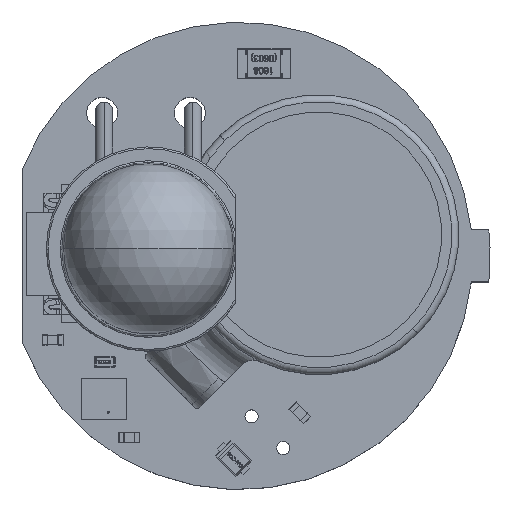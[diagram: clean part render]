
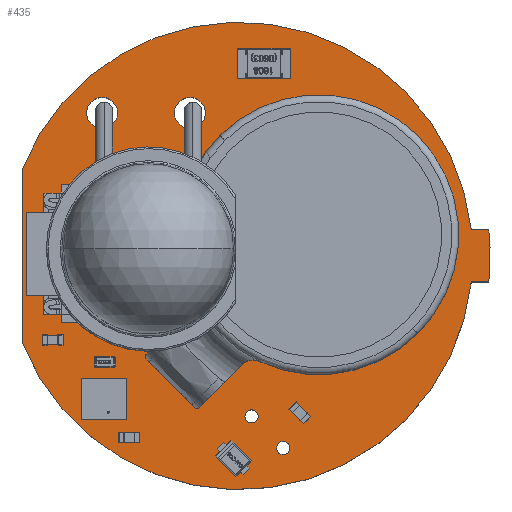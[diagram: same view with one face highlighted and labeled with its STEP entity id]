
A CAD part, top view. The second image highlights one B-rep face of the part: STEP entity #435.
In plain terms, the highlighted planar face has unit normal (0, 0, 1).
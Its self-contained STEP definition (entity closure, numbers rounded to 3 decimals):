
#92 = VERTEX_POINT('',#93);
#93 = CARTESIAN_POINT('',(0.,0.,
    1.6));
#99 = EDGE_CURVE('',#92,#100,#102,.T.);
#100 = VERTEX_POINT('',#101);
#101 = CARTESIAN_POINT('',(12.978,1.75,1.6));
#102 = CIRCLE('',#103,6.75);
#103 = AXIS2_PLACEMENT_3D('',#104,#105,#106);
#104 = CARTESIAN_POINT('',(6.27,2.5,1.6));
#105 = DIRECTION('',(0.,0.,1.));
#106 = DIRECTION('',(-0.929,-0.37,0.));
#132 = EDGE_CURVE('',#100,#133,#135,.T.);
#133 = VERTEX_POINT('',#134);
#134 = CARTESIAN_POINT('',(13.481,1.75,1.6));
#135 = LINE('',#136,#137);
#136 = CARTESIAN_POINT('',(12.978,1.75,1.6));
#137 = VECTOR('',#138,1.);
#138 = DIRECTION('',(1.,0.,0.));
#163 = EDGE_CURVE('',#133,#164,#166,.T.);
#164 = VERTEX_POINT('',#165);
#165 = CARTESIAN_POINT('',(13.481,3.25,1.6));
#166 = CIRCLE('',#167,7.231);
#167 = AXIS2_PLACEMENT_3D('',#168,#169,#170);
#168 = CARTESIAN_POINT('',(6.289,2.5,1.6));
#169 = DIRECTION('',(0.,0.,1.));
#170 = DIRECTION('',(0.995,-0.104,0.));
#196 = EDGE_CURVE('',#164,#197,#199,.T.);
#197 = VERTEX_POINT('',#198);
#198 = CARTESIAN_POINT('',(12.978,3.25,1.6));
#199 = LINE('',#200,#201);
#200 = CARTESIAN_POINT('',(13.481,3.25,1.6));
#201 = VECTOR('',#202,1.);
#202 = DIRECTION('',(-1.,0.,0.));
#227 = EDGE_CURVE('',#197,#228,#230,.T.);
#228 = VERTEX_POINT('',#229);
#229 = CARTESIAN_POINT('',(0.,5.,1.6));
#230 = CIRCLE('',#231,6.75);
#231 = AXIS2_PLACEMENT_3D('',#232,#233,#234);
#232 = CARTESIAN_POINT('',(6.27,2.5,1.6));
#233 = DIRECTION('',(0.,0.,1.));
#234 = DIRECTION('',(0.994,0.111,0.));
#260 = EDGE_CURVE('',#228,#92,#261,.T.);
#261 = LINE('',#262,#263);
#262 = CARTESIAN_POINT('',(0.,5.,1.6));
#263 = VECTOR('',#264,1.);
#264 = DIRECTION('',(0.,-1.,0.));
#284 = VERTEX_POINT('',#285);
#285 = CARTESIAN_POINT('',(5.301,6.629,1.6));
#291 = EDGE_CURVE('',#284,#284,#292,.T.);
#292 = CIRCLE('',#293,0.45);
#293 = AXIS2_PLACEMENT_3D('',#294,#295,#296);
#294 = CARTESIAN_POINT('',(4.851,6.629,1.6));
#295 = DIRECTION('',(0.,0.,1.));
#296 = DIRECTION('',(1.,0.,0.));
#317 = VERTEX_POINT('',#318);
#318 = CARTESIAN_POINT('',(2.761,6.629,1.6));
#324 = EDGE_CURVE('',#317,#317,#325,.T.);
#325 = CIRCLE('',#326,0.45);
#326 = AXIS2_PLACEMENT_3D('',#327,#328,#329);
#327 = CARTESIAN_POINT('',(2.311,6.629,1.6));
#328 = DIRECTION('',(0.,0.,1.));
#329 = DIRECTION('',(1.,0.,0.));
#350 = VERTEX_POINT('',#351);
#351 = CARTESIAN_POINT('',(7.734,-3.048,1.6));
#357 = EDGE_CURVE('',#350,#350,#358,.T.);
#358 = CIRCLE('',#359,0.19);
#359 = AXIS2_PLACEMENT_3D('',#360,#361,#362);
#360 = CARTESIAN_POINT('',(7.544,-3.048,1.6));
#361 = DIRECTION('',(0.,0.,1.));
#362 = DIRECTION('',(1.,0.,0.));
#383 = VERTEX_POINT('',#384);
#384 = CARTESIAN_POINT('',(6.819,-2.134,1.6));
#390 = EDGE_CURVE('',#383,#383,#391,.T.);
#391 = CIRCLE('',#392,0.19);
#392 = AXIS2_PLACEMENT_3D('',#393,#394,#395);
#393 = CARTESIAN_POINT('',(6.629,-2.134,1.6));
#394 = DIRECTION('',(0.,0.,1.));
#395 = DIRECTION('',(1.,0.,0.));
#435 = ADVANCED_FACE('',(#436,#444,#447,#450,#453),#456,.F.);
#436 = FACE_BOUND('',#437,.T.);
#437 = EDGE_LOOP('',(#438,#439,#440,#441,#442,#443));
#438 = ORIENTED_EDGE('',*,*,#99,.T.);
#439 = ORIENTED_EDGE('',*,*,#132,.T.);
#440 = ORIENTED_EDGE('',*,*,#163,.T.);
#441 = ORIENTED_EDGE('',*,*,#196,.T.);
#442 = ORIENTED_EDGE('',*,*,#227,.T.);
#443 = ORIENTED_EDGE('',*,*,#260,.T.);
#444 = FACE_BOUND('',#445,.F.);
#445 = EDGE_LOOP('',(#446));
#446 = ORIENTED_EDGE('',*,*,#291,.T.);
#447 = FACE_BOUND('',#448,.F.);
#448 = EDGE_LOOP('',(#449));
#449 = ORIENTED_EDGE('',*,*,#324,.T.);
#450 = FACE_BOUND('',#451,.F.);
#451 = EDGE_LOOP('',(#452));
#452 = ORIENTED_EDGE('',*,*,#357,.T.);
#453 = FACE_BOUND('',#454,.F.);
#454 = EDGE_LOOP('',(#455));
#455 = ORIENTED_EDGE('',*,*,#390,.T.);
#456 = PLANE('',#457);
#457 = AXIS2_PLACEMENT_3D('',#458,#459,#460);
#458 = CARTESIAN_POINT('',(0.,0.,
    1.6));
#459 = DIRECTION('',(0.,0.,-1.));
#460 = DIRECTION('',(-1.,0.,0.));
